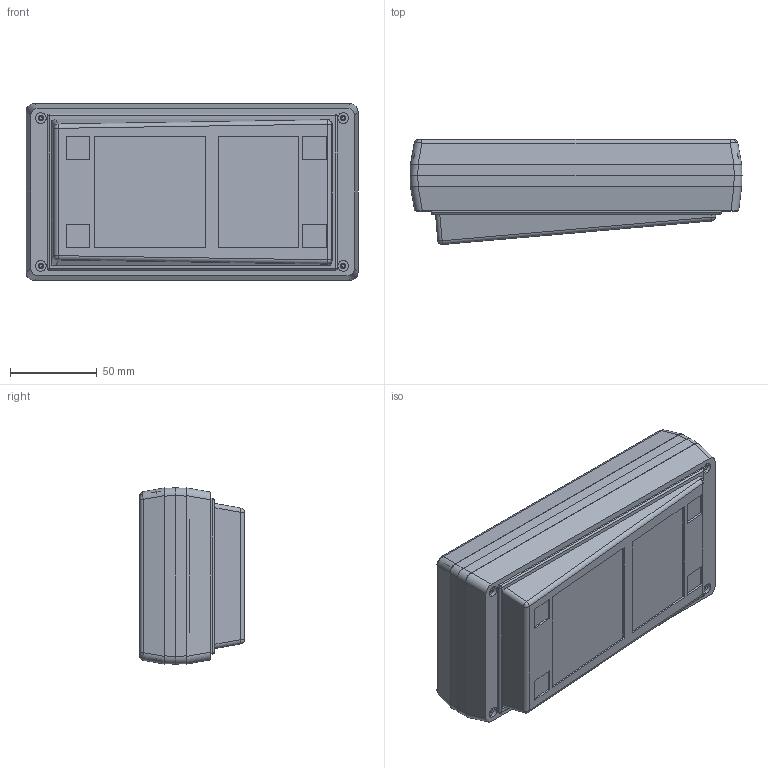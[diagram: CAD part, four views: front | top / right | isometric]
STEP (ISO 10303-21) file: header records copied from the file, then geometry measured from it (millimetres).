
FILE_DESCRIPTION (( 'STEP AP214' ), '1' );
FILE_NAME ('100-43-NO-R-E1.STEP', '2019-12-01T17:55:31', ( 'Rudy' ), ( '' ), 'SwSTEP 2.0', 'SolidWorks 2014', '' );
FILE_SCHEMA (( 'AUTOMOTIVE_DESIGN' ));
Length unit declared in the file: millimetre
Products named in the file (4): 100-06 EXPANDER; 100-04-recessed Top; 100-Sloped  bot; 100-43-NO-R-E1
Assembly tree (3 placements, depth 2):
  100-43-NO-R-E1
    100-Sloped  bot
    100-04-recessed Top
    100-06 EXPANDER
Bounding box: 191 x 60.32 x 101.4 mm (x, y, z)
Volume: 142002.8 mm3; surface area: 141908.5 mm2
Topology: 3 solids, 3 shells, 592 faces, 1532 edges, 943 vertices
Faces by surface type: plane 310, cylinder 208, cone 34, bspline 32, sphere 8
Entity records: 19211 total; most frequent: CARTESIAN_POINT 5430, ORIENTED_EDGE 3000, DIRECTION 2593, EDGE_CURVE 1500, VERTEX_POINT 941, VECTOR 929, LINE 929, AXIS2_PLACEMENT_3D 832
